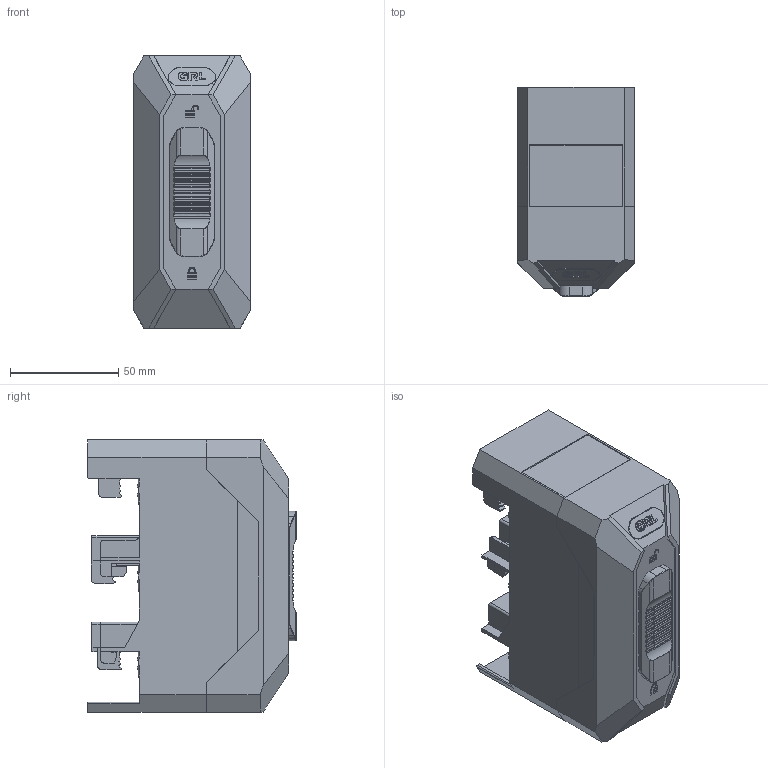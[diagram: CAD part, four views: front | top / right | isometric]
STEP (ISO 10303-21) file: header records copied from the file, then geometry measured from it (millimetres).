
FILE_DESCRIPTION (( 'STEP AP214' ), '1' );
FILE_NAME ('54375.STEP', '2022-08-03T08:23:47', ( 'Windows User' ), ( 'P R C' ), 'SwSTEP 2.0', 'SolidWorks 2019', '' );
FILE_SCHEMA (( 'AUTOMOTIVE_DESIGN' ));
Length unit declared in the file: millimetre
Products named in the file (1): 54375
Bounding box: 54 x 96.64 x 126.11 mm (x, y, z)
Volume: 327694.9 mm3; surface area: 92367.1 mm2
Topology: 2 solids, 2 shells, 1461 faces, 3994 edges, 2576 vertices
Faces by surface type: plane 940, cylinder 264, bspline 218, cone 23, torus 12, sphere 4
Entity records: 54722 total; most frequent: CARTESIAN_POINT 19095, ORIENTED_EDGE 7964, DIRECTION 6542, EDGE_CURVE 3982, VECTOR 2960, LINE 2960, VERTEX_POINT 2568, AXIS2_PLACEMENT_3D 1791
